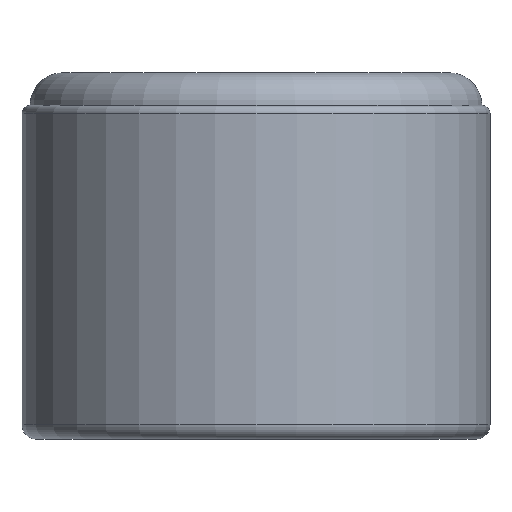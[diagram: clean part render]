
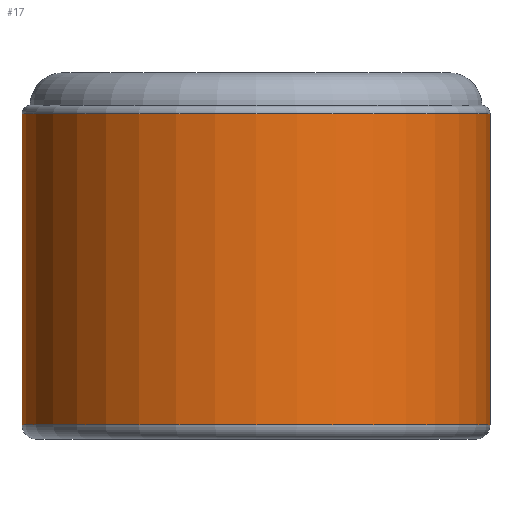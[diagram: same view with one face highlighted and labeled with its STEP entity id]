
A CAD part, front view. The second image highlights one B-rep face of the part: STEP entity #17.
In plain terms, the highlighted cylindrical face has radius 5.75 mm (diameter 11.5 mm), a full revolution.
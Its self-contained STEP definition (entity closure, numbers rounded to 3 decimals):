
#17 = ADVANCED_FACE('',(#18),#45,.T.);
#18 = FACE_BOUND('',#19,.T.);
#19 = EDGE_LOOP('',(#20,#30,#37,#38));
#20 = ORIENTED_EDGE('',*,*,#21,.T.);
#21 = EDGE_CURVE('',#22,#24,#26,.T.);
#22 = VERTEX_POINT('',#23);
#23 = CARTESIAN_POINT('',(5.75,0.,0.35));
#24 = VERTEX_POINT('',#25);
#25 = CARTESIAN_POINT('',(5.75,0.,8.));
#26 = LINE('',#27,#28);
#27 = CARTESIAN_POINT('',(5.75,0.,0.));
#28 = VECTOR('',#29,1.);
#29 = DIRECTION('',(0.,0.,1.));
#30 = ORIENTED_EDGE('',*,*,#31,.F.);
#31 = EDGE_CURVE('',#24,#24,#32,.T.);
#32 = CIRCLE('',#33,5.75);
#33 = AXIS2_PLACEMENT_3D('',#34,#35,#36);
#34 = CARTESIAN_POINT('',(0.,0.,8.));
#35 = DIRECTION('',(0.,0.,1.));
#36 = DIRECTION('',(1.,0.,-0.));
#37 = ORIENTED_EDGE('',*,*,#21,.F.);
#38 = ORIENTED_EDGE('',*,*,#39,.T.);
#39 = EDGE_CURVE('',#22,#22,#40,.T.);
#40 = CIRCLE('',#41,5.75);
#41 = AXIS2_PLACEMENT_3D('',#42,#43,#44);
#42 = CARTESIAN_POINT('',(0.,0.,0.35));
#43 = DIRECTION('',(0.,0.,1.));
#44 = DIRECTION('',(1.,0.,-0.));
#45 = CYLINDRICAL_SURFACE('',#46,5.75);
#46 = AXIS2_PLACEMENT_3D('',#47,#48,#49);
#47 = CARTESIAN_POINT('',(0.,0.,0.));
#48 = DIRECTION('',(0.,0.,1.));
#49 = DIRECTION('',(1.,0.,-0.));
